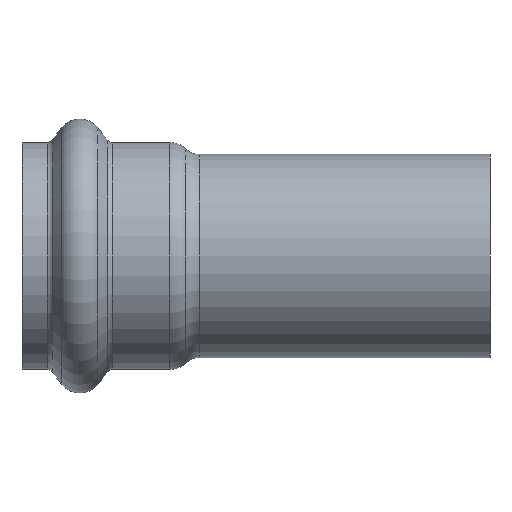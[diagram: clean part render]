
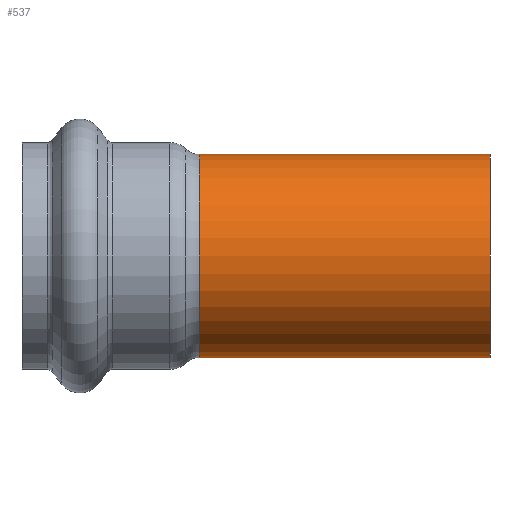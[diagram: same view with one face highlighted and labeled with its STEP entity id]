
A CAD part, front view. The second image highlights one B-rep face of the part: STEP entity #537.
In plain terms, the highlighted cylindrical face has radius 24.13 mm (diameter 48.26 mm), a full revolution.
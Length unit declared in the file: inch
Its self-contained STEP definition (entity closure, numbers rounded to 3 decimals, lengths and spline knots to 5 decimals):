
#50=CYLINDRICAL_SURFACE('',#610,0.95);
#58=LINE('',#972,#68);
#68=VECTOR('',#765,0.95);
#87=FACE_OUTER_BOUND('',#109,.T.);
#109=EDGE_LOOP('',(#397,#398,#399,#400,#401,#402,#403));
#153=CIRCLE('',#607,0.95);
#154=CIRCLE('',#608,0.95);
#155=CIRCLE('',#609,0.95);
#156=CIRCLE('',#611,0.95);
#157=CIRCLE('',#612,0.95);
#218=VERTEX_POINT('',#960);
#219=VERTEX_POINT('',#962);
#220=VERTEX_POINT('',#964);
#221=VERTEX_POINT('',#968);
#222=VERTEX_POINT('',#969);
#286=EDGE_CURVE('',#219,#218,#153,.T.);
#287=EDGE_CURVE('',#220,#219,#154,.T.);
#288=EDGE_CURVE('',#218,#220,#155,.T.);
#289=EDGE_CURVE('',#221,#222,#156,.T.);
#290=EDGE_CURVE('',#222,#221,#157,.T.);
#291=EDGE_CURVE('',#222,#220,#58,.T.);
#397=ORIENTED_EDGE('',*,*,#289,.F.);
#398=ORIENTED_EDGE('',*,*,#290,.F.);
#399=ORIENTED_EDGE('',*,*,#291,.T.);
#400=ORIENTED_EDGE('',*,*,#287,.T.);
#401=ORIENTED_EDGE('',*,*,#286,.T.);
#402=ORIENTED_EDGE('',*,*,#288,.T.);
#403=ORIENTED_EDGE('',*,*,#291,.F.);
#537=ADVANCED_FACE('',(#87),#50,.T.);
#607=AXIS2_PLACEMENT_3D('',#963,#753,#754);
#608=AXIS2_PLACEMENT_3D('',#965,#755,#756);
#609=AXIS2_PLACEMENT_3D('',#966,#757,#758);
#610=AXIS2_PLACEMENT_3D('',#967,#759,#760);
#611=AXIS2_PLACEMENT_3D('',#970,#761,#762);
#612=AXIS2_PLACEMENT_3D('',#971,#763,#764);
#753=DIRECTION('center_axis',(1.,0.,0.));
#754=DIRECTION('ref_axis',(0.,1.,0.));
#755=DIRECTION('center_axis',(1.,0.,0.));
#756=DIRECTION('ref_axis',(0.,1.,0.));
#757=DIRECTION('center_axis',(1.,0.,0.));
#758=DIRECTION('ref_axis',(0.,1.,0.));
#759=DIRECTION('center_axis',(1.,0.,0.));
#760=DIRECTION('ref_axis',(0.,1.,0.));
#761=DIRECTION('center_axis',(1.,0.,0.));
#762=DIRECTION('ref_axis',(0.,1.,0.));
#763=DIRECTION('center_axis',(1.,0.,0.));
#764=DIRECTION('ref_axis',(0.,1.,0.));
#765=DIRECTION('',(-1.,0.,0.));
#960=CARTESIAN_POINT('',(-0.53135,0.,0.95));
#962=CARTESIAN_POINT('',(-0.53135,0.95,0.));
#963=CARTESIAN_POINT('Origin',(-0.53135,0.,
0.));
#964=CARTESIAN_POINT('',(-0.53135,-0.95,0.));
#965=CARTESIAN_POINT('Origin',(-0.53135,0.,
0.));
#966=CARTESIAN_POINT('Origin',(-0.53135,0.,
0.));
#967=CARTESIAN_POINT('Origin',(0.82682,0.,
0.));
#968=CARTESIAN_POINT('',(2.185,0.95,0.));
#969=CARTESIAN_POINT('',(2.185,-0.95,0.));
#970=CARTESIAN_POINT('Origin',(2.185,0.,0.));
#971=CARTESIAN_POINT('Origin',(2.185,0.,0.));
#972=CARTESIAN_POINT('',(0.82682,-0.95,0.));
